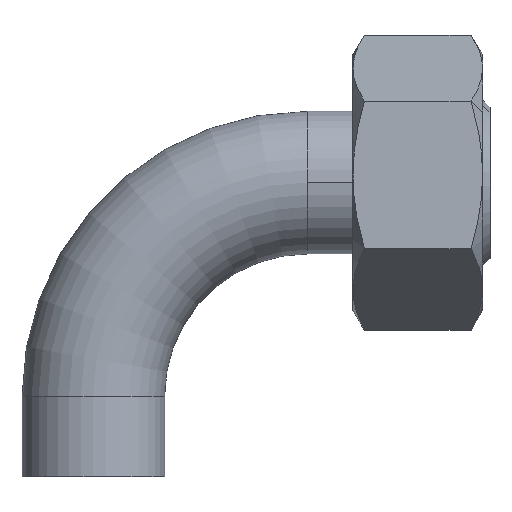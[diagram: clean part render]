
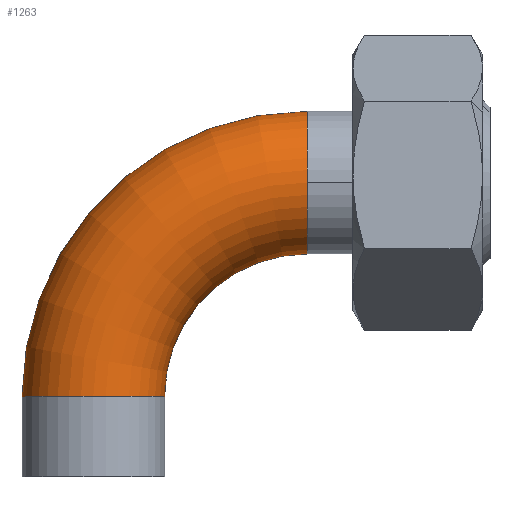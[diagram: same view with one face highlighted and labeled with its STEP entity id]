
A CAD part, top view. The second image highlights one B-rep face of the part: STEP entity #1263.
In plain terms, the highlighted toroidal (fillet/blend) face has major radius 38.1 mm and minor radius 12.7 mm.
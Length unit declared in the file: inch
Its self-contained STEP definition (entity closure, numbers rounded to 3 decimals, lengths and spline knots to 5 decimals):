
#2 = CARTESIAN_POINT ( 'NONE',  ( 1.5, 0., 0. ) ) ;
#45 = CIRCLE ( 'NONE', #3055, 0.5 ) ;
#387 = AXIS2_PLACEMENT_3D ( 'NONE', #2840, #2554, #1289 ) ;
#498 = CARTESIAN_POINT ( 'NONE',  ( 1.5, 0.5, 0. ) ) ;
#514 = CIRCLE ( 'NONE', #680, 0.5 ) ;
#521 = AXIS2_PLACEMENT_3D ( 'NONE', #1321, #2336, #3146 ) ;
#548 = ORIENTED_EDGE ( 'NONE', *, *, #2382, .T. ) ;
#553 = CARTESIAN_POINT ( 'NONE',  ( 1.5, -1.5, 0. ) ) ;
#614 = EDGE_LOOP ( 'NONE', ( #2255, #1172, #3253, #548, #1251 ) ) ;
#644 = VERTEX_POINT ( 'NONE', #498 ) ;
#680 = AXIS2_PLACEMENT_3D ( 'NONE', #2, #1258, #2762 ) ;
#760 = DIRECTION ( 'NONE',  ( -1., 0., 0. ) ) ;
#863 = CARTESIAN_POINT ( 'NONE',  ( 1.5, -0.5, 0. ) ) ;
#1061 = FACE_OUTER_BOUND ( 'NONE', #614, .T. ) ;
#1078 = DIRECTION ( 'NONE',  ( 0., 0., -1. ) ) ;
#1172 = ORIENTED_EDGE ( 'NONE', *, *, #3246, .F. ) ;
#1216 = DIRECTION ( 'NONE',  ( 0., 0., -1. ) ) ;
#1251 = ORIENTED_EDGE ( 'NONE', *, *, #2891, .T. ) ;
#1258 = DIRECTION ( 'NONE',  ( -1., 0., 0. ) ) ;
#1263 = ADVANCED_FACE ( 'NONE', ( #1061 ), #2418, .T. ) ;
#1289 = DIRECTION ( 'NONE',  ( -1., 0., 0. ) ) ;
#1321 = CARTESIAN_POINT ( 'NONE',  ( 0., -1.5, 0. ) ) ;
#1454 = CARTESIAN_POINT ( 'NONE',  ( -0.5, -1.5, 0. ) ) ;
#1622 = CARTESIAN_POINT ( 'NONE',  ( 1.5, 0., 0.5 ) ) ;
#1786 = DIRECTION ( 'NONE',  ( 0., -1., 0. ) ) ;
#1819 = CARTESIAN_POINT ( 'NONE',  ( 1.5, 0., 0. ) ) ;
#1847 = CIRCLE ( 'NONE', #387, 2. ) ;
#1937 = VERTEX_POINT ( 'NONE', #863 ) ;
#1974 = CIRCLE ( 'NONE', #3107, 1. ) ;
#2105 = DIRECTION ( 'NONE',  ( -1., 0., 0. ) ) ;
#2188 = EDGE_CURVE ( 'NONE', #2752, #644, #1847, .T. ) ;
#2245 = CIRCLE ( 'NONE', #521, 0.5 ) ;
#2255 = ORIENTED_EDGE ( 'NONE', *, *, #2188, .F. ) ;
#2336 = DIRECTION ( 'NONE',  ( 0., -1., 0. ) ) ;
#2382 = EDGE_CURVE ( 'NONE', #1937, #2547, #45, .T. ) ;
#2418 = TOROIDAL_SURFACE ( 'NONE', #3247, 1.5, 0.5 ) ;
#2505 = CARTESIAN_POINT ( 'NONE',  ( 0.5, -1.5, 0. ) ) ;
#2547 = VERTEX_POINT ( 'NONE', #1622 ) ;
#2554 = DIRECTION ( 'NONE',  ( 0., 0., -1. ) ) ;
#2742 = DIRECTION ( 'NONE',  ( -1., 0., 0. ) ) ;
#2752 = VERTEX_POINT ( 'NONE', #1454 ) ;
#2762 = DIRECTION ( 'NONE',  ( 0., -1., 0. ) ) ;
#2840 = CARTESIAN_POINT ( 'NONE',  ( 1.5, -1.5, 0. ) ) ;
#2891 = EDGE_CURVE ( 'NONE', #2547, #644, #514, .T. ) ;
#3055 = AXIS2_PLACEMENT_3D ( 'NONE', #1819, #760, #1786 ) ;
#3107 = AXIS2_PLACEMENT_3D ( 'NONE', #48, #1216, #2742 ) ;
#3112 = EDGE_CURVE ( 'NONE', #3151, #1937, #1974, .T. ) ;
#3146 = DIRECTION ( 'NONE',  ( 1., 0., 0. ) ) ;
#3151 = VERTEX_POINT ( 'NONE', #2505 ) ;
#3246 = EDGE_CURVE ( 'NONE', #3151, #2752, #2245, .T. ) ;
#3247 = AXIS2_PLACEMENT_3D ( 'NONE', #553, #1078, #2105 ) ;
#3253 = ORIENTED_EDGE ( 'NONE', *, *, #3112, .T. ) ;
#48 = CARTESIAN_POINT ( 'NONE',  ( 1.5, -1.5, 0. ) ) ;
